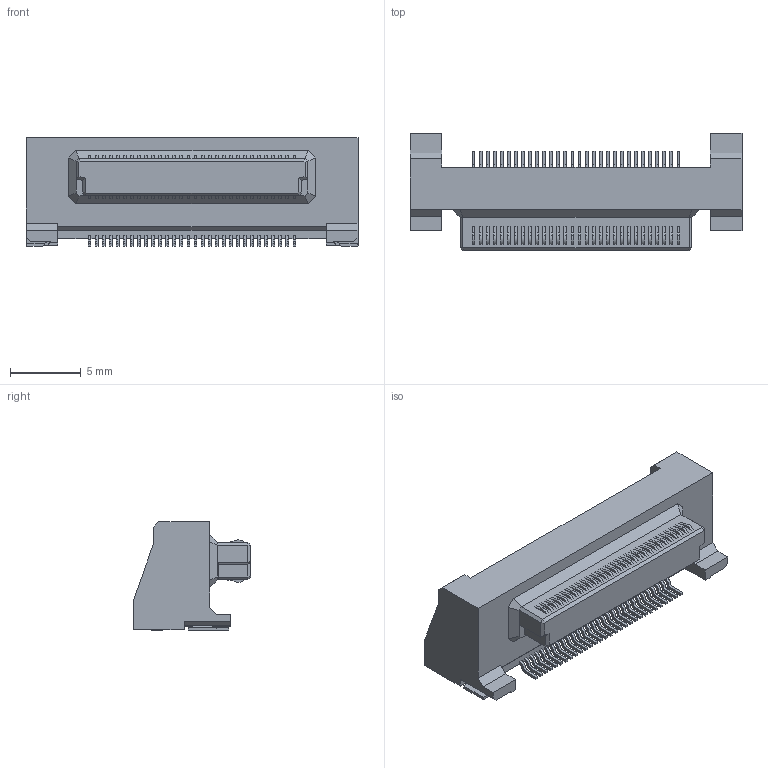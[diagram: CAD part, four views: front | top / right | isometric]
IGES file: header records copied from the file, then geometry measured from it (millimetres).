
Start section: Elysium IGES Interface
Global section: file name: C:\Users\1354\Desktop\DY10-060L.igs; native system: Creo Elements/Direct Modeling 19.0F  14-Feb-2017; preprocessor: Creo Element/Direct IGES_3D V2.2; author: Unknown; organization: Unknown; date: 20171130.161144; units: millimetre
Bounding box: 23.5 x 8.3 x 7.7 mm (x, y, z)
Volume: 691.3 mm3; surface area: 840.4 mm2
Topology: 1 solids, 1 shells, 1027 faces, 2798 edges, 1836 vertices
Faces by surface type: bspline 1027
